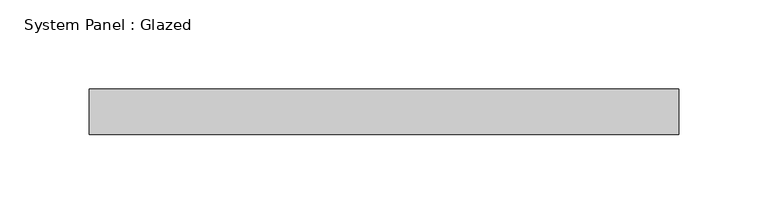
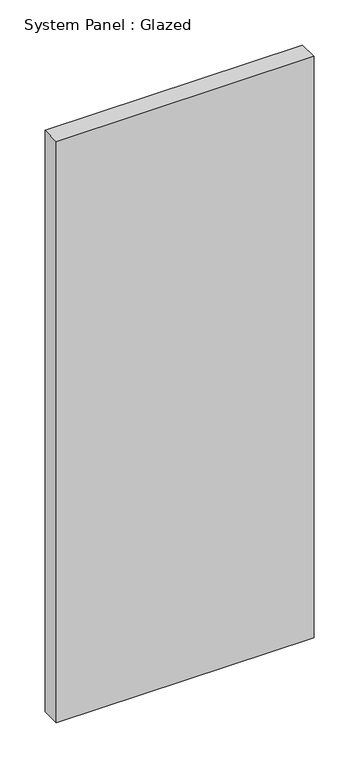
"""IFC4 building model written with IfcOpenShell, lengths in millimetres: plate geometry, System Panel : Glazed."""

from ifc_helpers import new_model, si_unit, origin, origin_with_axes, place, context, project, spatial, polyline, outline, extrude, source, transform, mapped, element, save


def system_panel_glazed_d9a092fd(model_context):
    return source(origin(), model_context, "Body", "SweptSolid", [
        extrude(outline(polyline([(165.0999998, -44.45), (-165.0999998, -44.45), (-165.0999998, -19.05), (165.0999998, -19.05), (165.0999998, -44.45)])), origin_with_axes(), (0.0, 0.0, 1.0), 787.4),
    ])


if __name__ == "__main__":
    model = new_model("IFC4")
    model_context = context("Model", 3, world=origin())
    ifc_project = project(units=[si_unit("LENGTHUNIT", "METRE", prefix="MILLI")], contexts=[model_context])
    site = spatial("IfcSite", under=ifc_project)
    building = spatial("IfcBuilding", under=site)
    placement = place(None, origin())
    system_panel_glazed_shape = system_panel_glazed_d9a092fd(model_context)
    element("IfcPlate", 1, ObjectType="System Panel : Glazed", at=placement, inside=building, context=model_context, shape_type="MappedRepresentation", body=[
        mapped(system_panel_glazed_shape, transform((0.0, 0.0, 0.0), x_axis=(1.0, 0.0, 0.0), y_axis=(0.0, 1.0, 0.0), z_axis=(0.0, 0.0, 1.0))),
    ])
    save(model, "model.ifc")
